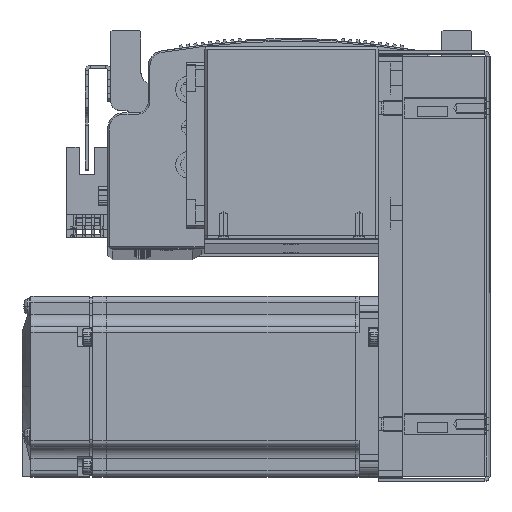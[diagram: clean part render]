
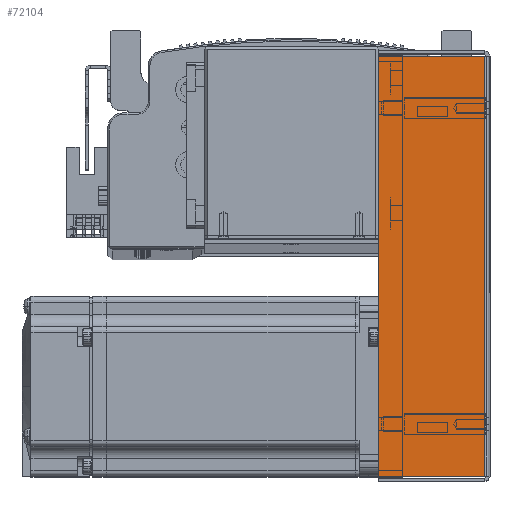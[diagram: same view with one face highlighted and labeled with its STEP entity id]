
A CAD part, top view. The second image highlights one B-rep face of the part: STEP entity #72104.
In plain terms, the highlighted planar face has unit normal (0, 0, 1).
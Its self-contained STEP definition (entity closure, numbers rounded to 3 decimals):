
#335 = EDGE_CURVE ( 'NONE', #45426, #45464, #71837, .T. ) ;
#336 = EDGE_CURVE ( 'NONE', #45485, #45426, #71777, .T. ) ;
#345 = EDGE_CURVE ( 'NONE', #45485, #45461, #71846, .T. ) ;
#414 = EDGE_CURVE ( 'NONE', #45461, #45464, #72061, .T. ) ;
#1956 = FACE_OUTER_BOUND ( 'NONE', #54276, .T. ) ;
#20846 = CARTESIAN_POINT ( 'NONE',  ( 69.793, 36., 33.5 ) ) ;
#20856 = CARTESIAN_POINT ( 'NONE',  ( -69.793, 36., 33.5 ) ) ;
#20929 = CARTESIAN_POINT ( 'NONE',  ( 69.793, 0.737, 33.5 ) ) ;
#20944 = CARTESIAN_POINT ( 'NONE',  ( -69.793, 0.737, 33.5 ) ) ;
#34630 = ORIENTED_EDGE ( 'NONE', *, *, #414, .F. ) ;
#40504 = CARTESIAN_POINT ( 'NONE',  ( 0., 0., 33.5 ) ) ;
#40516 = PLANE ( 'NONE',  #64022 ) ;
#40525 = DIRECTION ( 'NONE',  ( 0., 0., -1. ) ) ;
#40543 = DIRECTION ( 'NONE',  ( -1., 0., 0. ) ) ;
#45426 = VERTEX_POINT ( 'NONE', #20846 ) ;
#45461 = VERTEX_POINT ( 'NONE', #20944 ) ;
#45464 = VERTEX_POINT ( 'NONE', #20856 ) ;
#45485 = VERTEX_POINT ( 'NONE', #20929 ) ;
#54276 = EDGE_LOOP ( 'NONE', ( #92989, #93002, #92979, #34630 ) ) ;
#64022 = AXIS2_PLACEMENT_3D ( 'NONE', #40504, #40525, #40543 ) ;
#68555 = DIRECTION ( 'NONE',  ( 0., 1., 0. ) ) ;
#68586 = CARTESIAN_POINT ( 'NONE',  ( 69.793, 0., 33.5 ) ) ;
#68589 = CARTESIAN_POINT ( 'NONE',  ( -71.5, 0.737, 33.5 ) ) ;
#68597 = DIRECTION ( 'NONE',  ( -1., 0., 0. ) ) ;
#68635 = DIRECTION ( 'NONE',  ( -1., 0., 0. ) ) ;
#68646 = CARTESIAN_POINT ( 'NONE',  ( 0., 36., 33.5 ) ) ;
#68881 = DIRECTION ( 'NONE',  ( 0., 1., 0. ) ) ;
#68884 = CARTESIAN_POINT ( 'NONE',  ( -69.793, 0., 33.5 ) ) ;
#71777 = LINE ( 'NONE', #68586, #71787 ) ;
#71787 = VECTOR ( 'NONE', #68555, 1000. ) ;
#71837 = LINE ( 'NONE', #68646, #71853 ) ;
#71846 = LINE ( 'NONE', #68589, #71865 ) ;
#71853 = VECTOR ( 'NONE', #68635, 1000. ) ;
#71865 = VECTOR ( 'NONE', #68597, 1000. ) ;
#72061 = LINE ( 'NONE', #68884, #72064 ) ;
#72064 = VECTOR ( 'NONE', #68881, 1000. ) ;
#72104 = ADVANCED_FACE ( 'NONE', ( #1956 ), #40516, .F. ) ;
#92979 = ORIENTED_EDGE ( 'NONE', *, *, #335, .T. ) ;
#92989 = ORIENTED_EDGE ( 'NONE', *, *, #345, .F. ) ;
#93002 = ORIENTED_EDGE ( 'NONE', *, *, #336, .T. ) ;
